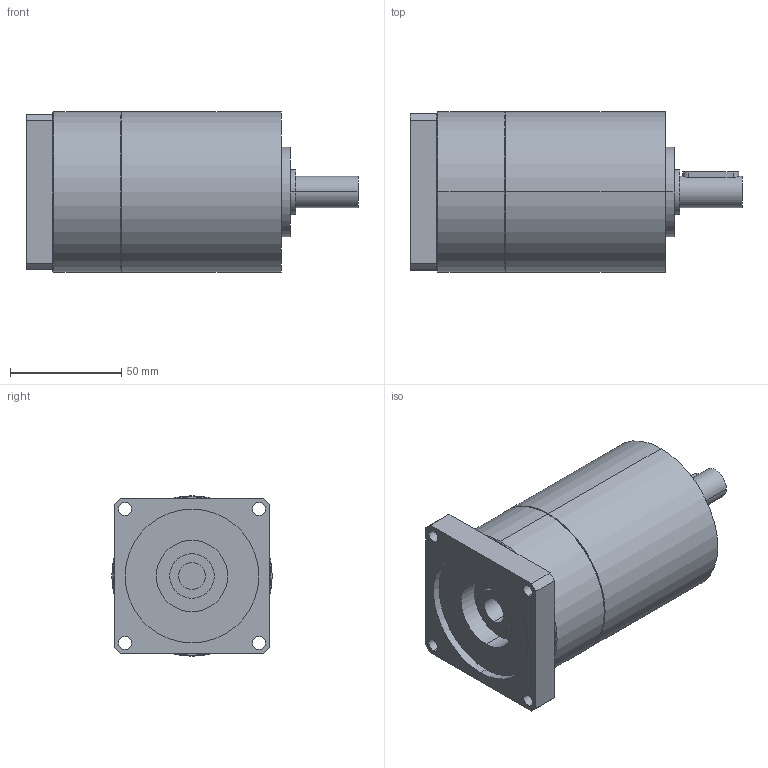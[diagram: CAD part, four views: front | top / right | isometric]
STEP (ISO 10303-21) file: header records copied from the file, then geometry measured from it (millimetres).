
FILE_DESCRIPTION(('CoCreate Modeling STEP Export'),'2;1');
FILE_NAME('GPT75_ig-9-12-16-20-25-28-35-40-50-70-100_14_B14T_12_P30.stp','2014-08-27T13:16:40',(''),(''),'CoCreate Modeling STEP processor for AP214 (Solid Model)','CoCreate Modeling 16.00C 25-Feb-2009 (C) Parametric Technology GmbH','');
FILE_SCHEMA(('AUTOMOTIVE_DESIGN { 1 0 10303 214 1 1 1 1 }'));
Length unit declared in the file: millimetre
Products named in the file (2): GPT75_ig-9-12-16-20-25-28-35-40-50-70-100_14_B14T_12_P30
Assembly tree (1 placements, depth 2):
  GPT75_ig-9-12-16-20-25-28-35-40-50-70-100_14_B14T_12_P30
    GPT75_ig-9-12-16-20-25-28-35-40-50-70-100_14_B14T_12_P30
Bounding box: 149 x 72 x 72 mm (x, y, z)
Volume: 464716.6 mm3; surface area: 43022 mm2
Topology: 1 solids, 1 shells, 76 faces, 182 edges, 121 vertices
Faces by surface type: cylinder 42, plane 30, cone 4
Entity records: 2265 total; most frequent: CARTESIAN_POINT 677, ORIENTED_EDGE 364, DIRECTION 268, EDGE_CURVE 182, VERTEX_POINT 121, AXIS2_PLACEMENT_3D 100, EDGE_LOOP 97, FACE_OUTER_BOUND 76
